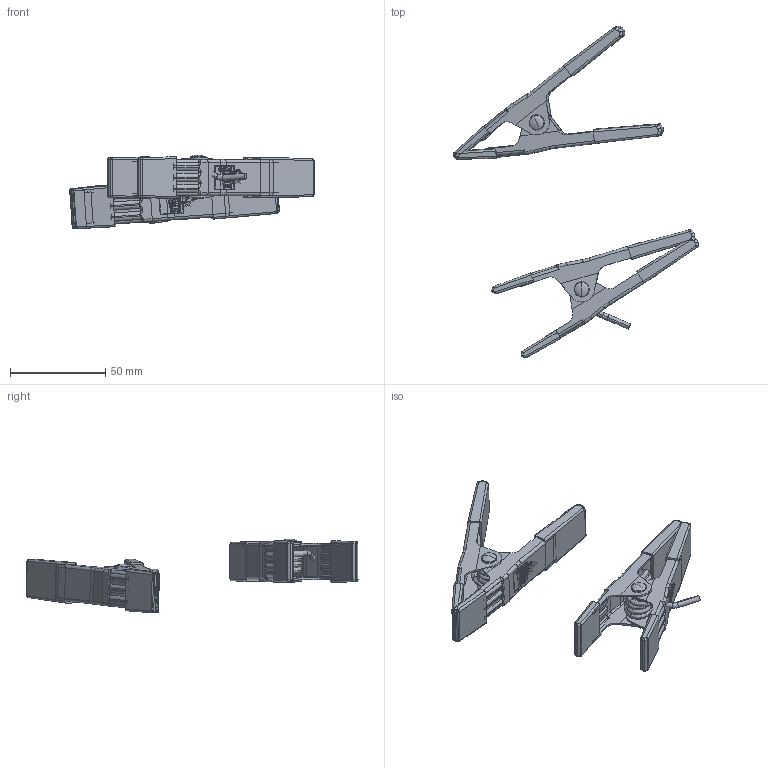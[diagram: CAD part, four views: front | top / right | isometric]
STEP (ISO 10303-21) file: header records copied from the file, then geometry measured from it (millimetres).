
FILE_DESCRIPTION((''),'2;1');
FILE_NAME('GS-1-S_ASM','2016-09-28T',('075_kfb'),(''),'PRO/ENGINEER BY PARAMETRIC TECHNOLOGY CORPORATION, 2010280','PRO/ENGINEER BY PARAMETRIC TECHNOLOGY CORPORATION, 2010280','');
FILE_SCHEMA(('AUTOMOTIVE_DESIGN_CC2 { 1 2 10303 214 -1 1 5 2 }'));
Products named in the file (16): JZ1-S1; XZ-1; JZ1-X1; TMP_DWG; TANHUANG-1; QIANTAO-Q; HOUTAO-1; JZ1-S1_30; XZ-1_1; JZ1-X1_23; TANHUANG-1_6; QIANTAO-Q_4; HOUTAO-1_4; GS-1-S_ASM_45_ASM; GS-1C-0929_ASM; GS-1-S_ASM
Assembly tree (19 placements, depth 4):
  GS-1-S_ASM
    JZ1-S1
    XZ-1
    JZ1-X1
    TMP_DWG
    TANHUANG-1
    QIANTAO-Q  x2
    HOUTAO-1  x2
    GS-1C-0929_ASM
      GS-1-S_ASM_45_ASM
        JZ1-S1_30
        XZ-1_1
        JZ1-X1_23
        TANHUANG-1_6
        QIANTAO-Q_4  x2
        HOUTAO-1_4  x2
Bounding box: 128.15 x 173.95 x 38.59 mm (x, y, z)
Volume: 27720.7 mm3; surface area: 54095.2 mm2
Topology: 16 solids, 16 shells, 1860 faces, 4898 edges, 3084 vertices
Faces by surface type: plane 818, cylinder 506, bspline 212, torus 156, extrusion 140, sphere 28
Entity records: 76459 total; most frequent: CARTESIAN_POINT 27523, ORIENTED_EDGE 9260, DIRECTION 7745, EDGE_CURVE 4630, VERTEX_POINT 2936, VECTOR 2615, AXIS2_PLACEMENT_3D 2565, LINE 2475
